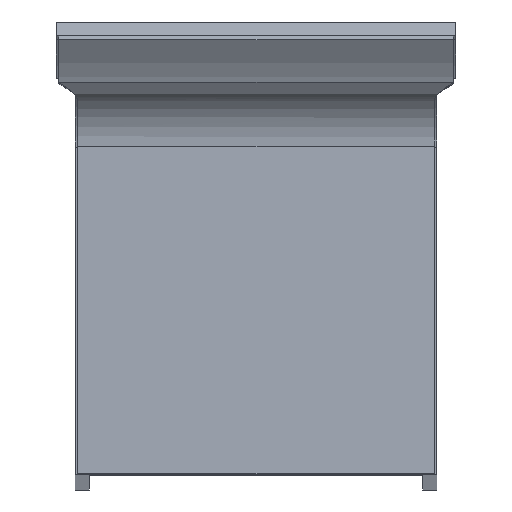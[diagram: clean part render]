
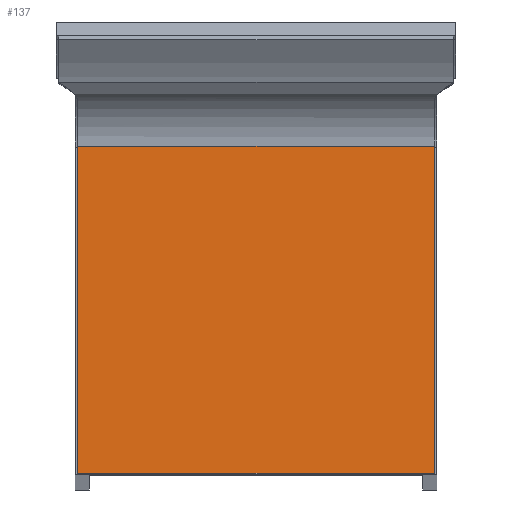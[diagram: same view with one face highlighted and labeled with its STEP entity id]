
A CAD part, top view. The second image highlights one B-rep face of the part: STEP entity #137.
In plain terms, the highlighted planar face has unit normal (0, 0.033, 1).
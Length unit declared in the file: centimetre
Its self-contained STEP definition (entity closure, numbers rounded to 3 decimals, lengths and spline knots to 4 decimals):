
#137=ADVANCED_FACE($,(#211),#948,.T.);
#211=FACE_OUTER_BOUND($,#285,.T.);
#285=EDGE_LOOP($,(#605,#606,#607,#608));
#605=ORIENTED_EDGE($,*,*,#783,.F.);
#606=ORIENTED_EDGE($,*,*,#784,.F.);
#607=ORIENTED_EDGE($,*,*,#775,.T.);
#608=ORIENTED_EDGE($,*,*,#782,.F.);
#775=EDGE_CURVE($,#890,#889,#1084,.T.);
#782=EDGE_CURVE($,#893,#889,#1091,.T.);
#783=EDGE_CURVE($,#894,#893,#1092,.T.);
#784=EDGE_CURVE($,#890,#894,#1093,.T.);
#889=VERTEX_POINT($,#2253);
#890=VERTEX_POINT($,#2254);
#893=VERTEX_POINT($,#2257);
#894=VERTEX_POINT($,#2258);
#948=PLANE($,#1237);
#1084=B_SPLINE_CURVE_WITH_KNOTS($,1,(#1957,#1958),.UNSPECIFIED.,.F.,.F.,
(2,2),(0.,379.9998),.UNSPECIFIED.);
#1091=B_SPLINE_CURVE_WITH_KNOTS($,1,(#2005,#2006),.UNSPECIFIED.,.F.,.F.,
(2,2),(0.,348.12),.UNSPECIFIED.);
#1092=B_SPLINE_CURVE_WITH_KNOTS($,1,(#2007,#2008),.UNSPECIFIED.,.F.,.F.,
(2,2),(0.,379.9998),.UNSPECIFIED.);
#1093=B_SPLINE_CURVE_WITH_KNOTS($,1,(#2009,#2010),.UNSPECIFIED.,.F.,.F.,
(2,2),(-348.12,0.),.UNSPECIFIED.);
#1237=AXIS2_PLACEMENT_3D($,#2218,#1294,$);
#1294=DIRECTION($,(0.,0.033,0.999));
#1957=CARTESIAN_POINT($,(45.8812,35.4967,43.9047));
#1958=CARTESIAN_POINT($,(7.8812,35.4967,43.9047));
#2005=CARTESIAN_POINT($,(7.8812,0.7034,45.0455));
#2006=CARTESIAN_POINT($,(7.8812,35.4967,43.9047));
#2007=CARTESIAN_POINT($,(45.8812,0.7034,45.0455));
#2008=CARTESIAN_POINT($,(7.8812,0.7034,45.0455));
#2009=CARTESIAN_POINT($,(45.8812,35.4967,43.9047));
#2010=CARTESIAN_POINT($,(45.8812,0.7034,45.0455));
#2218=CARTESIAN_POINT($,(45.8812,35.4967,43.9047));
#2253=CARTESIAN_POINT($,(7.8812,35.4967,43.9047));
#2254=CARTESIAN_POINT($,(45.8812,35.4967,43.9047));
#2257=CARTESIAN_POINT($,(7.8812,0.7034,45.0455));
#2258=CARTESIAN_POINT($,(45.8812,0.7034,45.0455));
